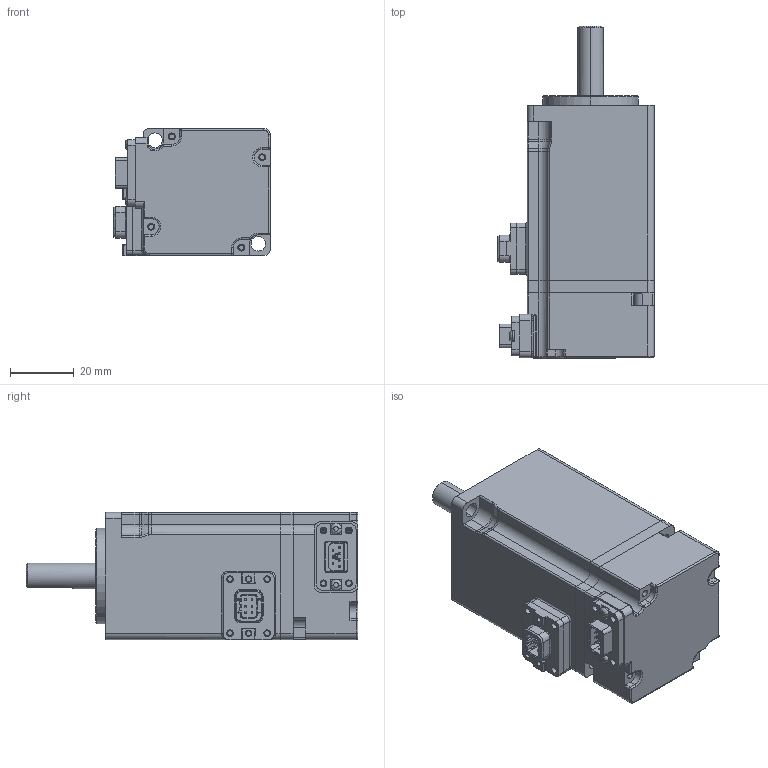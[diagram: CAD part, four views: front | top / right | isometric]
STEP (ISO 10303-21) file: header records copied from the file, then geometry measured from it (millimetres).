
FILE_DESCRIPTION(('FreeCAD Model'),'2;1');
FILE_NAME('Open CASCADE Shape Model','2025-03-17T12:02:26',('Author'),( ''),'Open CASCADE STEP processor 7.6','FreeCAD','Unknown');
FILE_SCHEMA(('AUTOMOTIVE_DESIGN { 1 0 10303 214 1 1 1 1 }'));
Length unit declared in the file: millimetre
Products named in the file (10): PSM6H-40CS30B3-20P1; PSM6H-40CS30B3-20P002; PSM6H-40CS30B3-20P003; PSM6H-40CS30B3-20P004; PSM6H-40CS30B3-20P005; PSM6H-40CS30B3-20P006; PSM6H-40CS30B3-20P007; PSM6H-40CS30B3-20P008; PSM6H-40CS30B3-20P009; PSM6H-40CS30B3-20P010
Assembly tree (9 placements, depth 2):
  PSM6H-40CS30B3-20P1
    PSM6H-40CS30B3-20P002
    PSM6H-40CS30B3-20P003
    PSM6H-40CS30B3-20P004
    PSM6H-40CS30B3-20P005
    PSM6H-40CS30B3-20P006
    PSM6H-40CS30B3-20P007
    PSM6H-40CS30B3-20P008
    PSM6H-40CS30B3-20P009
    PSM6H-40CS30B3-20P010
Bounding box: 49.2 x 104.4 x 40 mm (x, y, z)
Surface area: 20833.3 mm2 (no closed solid volume)
Topology: 0 solids, 9 shells, 603 faces, 1982 edges, 1365 vertices
Faces by surface type: plane 299, cylinder 212, torus 39, cone 26, bspline 14, sphere 9, revolution 4
Entity records: 22889 total; most frequent: CARTESIAN_POINT 5361, DIRECTION 3660, ORIENTED_EDGE 3296, EDGE_CURVE 1973, VERTEX_POINT 1365, LINE 1316, VECTOR 1316, AXIS2_PLACEMENT_3D 1170
